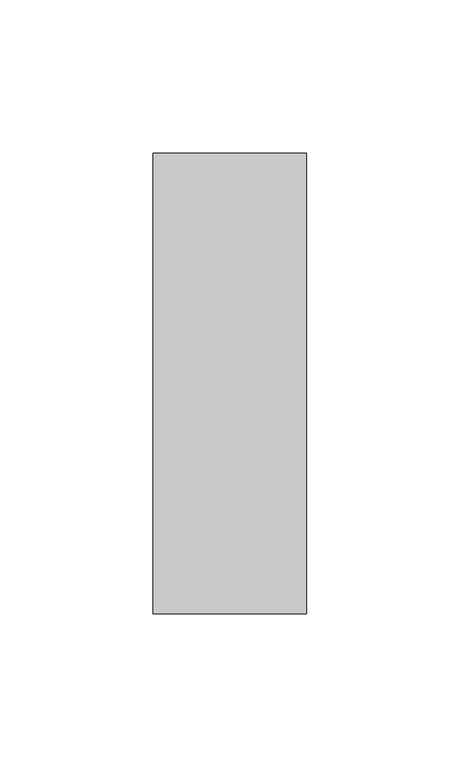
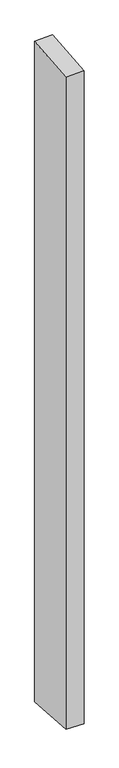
"""IFC4 building model written with IfcOpenShell, lengths in millimetres: member geometry, Прямоугольный импост : 50 x 150 мм."""

from ifc_helpers import new_model, si_unit, origin, place, context, project, spatial, faceted_brep, source, transform, mapped, element, save


def member_535ee07e(model_context):
    return source(origin(), model_context, "Body", "Brep", [
        faceted_brep([(-25.0, 75.0, 6.3496713), (25.0, 75.0, 7.9350792), (25.0, 75.0, -1926.0603599), (-25.0, 75.0, -1924.8797465), (-25.0, -75.0, -7.9350792), (-25.0, -75.0, -1915.5084754), (25.0, -75.0, -6.3496713), (25.0, -75.0, -1916.6890889)], [[[0, 1, 2, 3]], [[4, 0, 3, 5]], [[6, 4, 5, 7]], [[1, 6, 7, 2]], [[1, 0, 4, 6]], [[2, 7, 5, 3]]]),
    ])


if __name__ == "__main__":
    model = new_model("IFC4")
    model_context = context("Model", 3, world=origin())
    ifc_project = project(units=[si_unit("LENGTHUNIT", "METRE", prefix="MILLI")], contexts=[model_context])
    site = spatial("IfcSite", under=ifc_project)
    building = spatial("IfcBuilding", under=site)
    placement = place(None, origin())
    member_shape = member_535ee07e(model_context)
    element("IfcMember", 1, ObjectType="Прямоугольный импост : 50 x 150 мм", at=placement, inside=building, context=model_context, shape_type="MappedRepresentation", body=[
        mapped(member_shape, transform((0.0, 0.0, 0.0), x_axis=(1.0, 0.0, 0.0), y_axis=(0.0, 1.0, 0.0), z_axis=(0.0, 0.0, 1.0))),
    ])
    save(model, "model.ifc")
